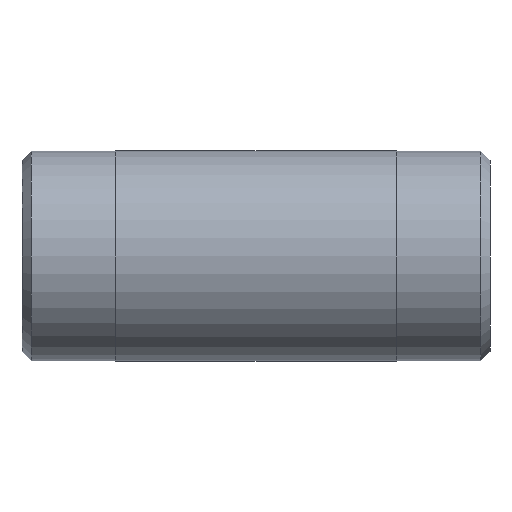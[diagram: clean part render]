
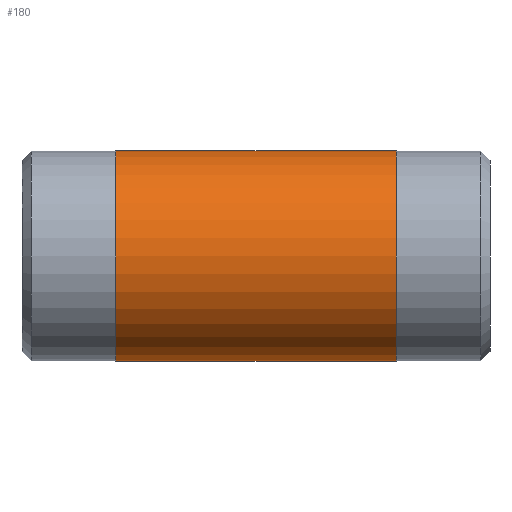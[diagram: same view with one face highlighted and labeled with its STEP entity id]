
A CAD part, left-side view. The second image highlights one B-rep face of the part: STEP entity #180.
In plain terms, the highlighted cylindrical face has radius 8.572 mm (diameter 17.145 mm), a full revolution.
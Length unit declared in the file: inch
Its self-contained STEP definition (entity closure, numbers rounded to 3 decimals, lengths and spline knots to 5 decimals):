
#25=CYLINDRICAL_SURFACE('',#220,0.3375);
#34=FACE_OUTER_BOUND('',#47,.T.);
#47=EDGE_LOOP('',(#155,#156,#157,#158,#159,#160));
#55=LINE('',#338,#61);
#61=VECTOR('',#283,0.3375);
#77=CIRCLE('',#218,0.3375);
#78=CIRCLE('',#219,0.3375);
#79=CIRCLE('',#221,0.3375);
#80=CIRCLE('',#222,0.3375);
#95=VERTEX_POINT('',#329);
#96=VERTEX_POINT('',#330);
#97=VERTEX_POINT('',#334);
#98=VERTEX_POINT('',#335);
#117=EDGE_CURVE('',#95,#96,#77,.T.);
#118=EDGE_CURVE('',#96,#95,#78,.T.);
#119=EDGE_CURVE('',#97,#98,#79,.T.);
#120=EDGE_CURVE('',#98,#97,#80,.T.);
#121=EDGE_CURVE('',#98,#96,#55,.T.);
#155=ORIENTED_EDGE('',*,*,#119,.F.);
#156=ORIENTED_EDGE('',*,*,#120,.F.);
#157=ORIENTED_EDGE('',*,*,#121,.T.);
#158=ORIENTED_EDGE('',*,*,#118,.T.);
#159=ORIENTED_EDGE('',*,*,#117,.T.);
#160=ORIENTED_EDGE('',*,*,#121,.F.);
#180=ADVANCED_FACE('',(#34),#25,.T.);
#218=AXIS2_PLACEMENT_3D('',#331,#273,#274);
#219=AXIS2_PLACEMENT_3D('',#332,#275,#276);
#220=AXIS2_PLACEMENT_3D('',#333,#277,#278);
#221=AXIS2_PLACEMENT_3D('',#336,#279,#280);
#222=AXIS2_PLACEMENT_3D('',#337,#281,#282);
#273=DIRECTION('center_axis',(0.,-1.,0.));
#274=DIRECTION('ref_axis',(1.,0.,0.));
#275=DIRECTION('center_axis',(0.,-1.,0.));
#276=DIRECTION('ref_axis',(1.,0.,0.));
#277=DIRECTION('center_axis',(0.,-1.,0.));
#278=DIRECTION('ref_axis',(0.,0.,-1.));
#279=DIRECTION('center_axis',(0.,-1.,0.));
#280=DIRECTION('ref_axis',(1.,0.,0.));
#281=DIRECTION('center_axis',(0.,-1.,0.));
#282=DIRECTION('ref_axis',(1.,0.,0.));
#283=DIRECTION('',(0.,1.,0.));
#329=CARTESIAN_POINT('',(0.,1.2,-0.3375));
#330=CARTESIAN_POINT('',(0.,1.2,0.3375));
#331=CARTESIAN_POINT('Origin',(0.,1.2,0.));
#332=CARTESIAN_POINT('Origin',(0.,1.2,0.));
#333=CARTESIAN_POINT('Origin',(0.,0.75,0.));
#334=CARTESIAN_POINT('',(0.,0.3,-0.3375));
#335=CARTESIAN_POINT('',(0.,0.3,0.3375));
#336=CARTESIAN_POINT('Origin',(0.,0.3,0.));
#337=CARTESIAN_POINT('Origin',(0.,0.3,0.));
#338=CARTESIAN_POINT('',(0.,0.75,0.3375));
